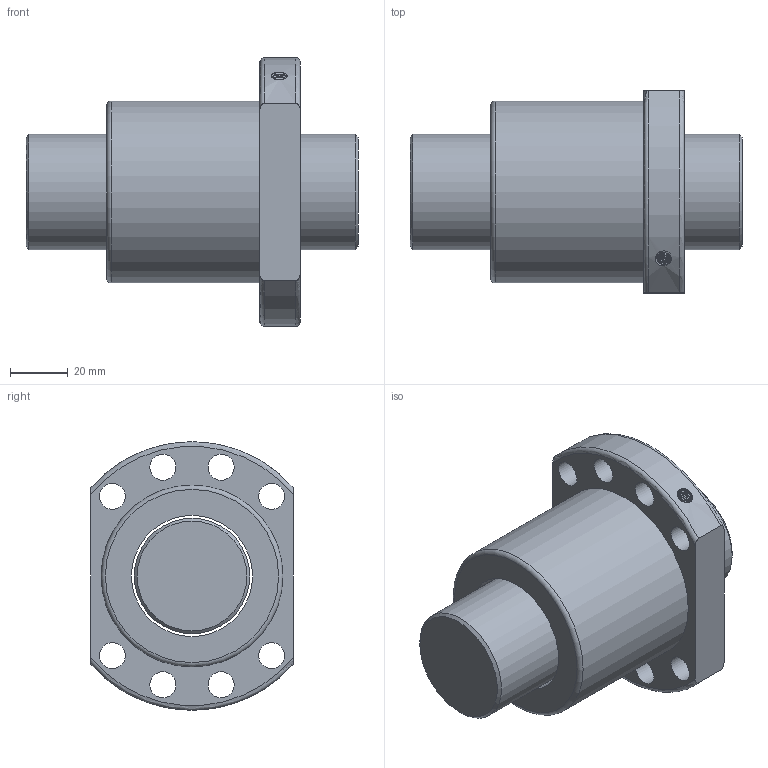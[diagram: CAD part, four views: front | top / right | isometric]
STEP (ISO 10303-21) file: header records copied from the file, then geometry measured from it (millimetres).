
FILE_DESCRIPTION(/* description */ ('Unknown','CAx-IF Rec.Pracs.---Representation and Presentation of Product Manufacturing Information (PMI)---4.0---2014-10-13','CAx-IF Rec.Pracs.---3D Tessellated Geometry---0.4---2014-09-14','2;1'),/* implementation_level */ '2;1');
FILE_NAME(/* name */ 'SFU04008',/* time_stamp */ '2020-12-07T16:54:11+08:00',/* author */ ('Unknown'),/* organization */ ('Unknown'),/* preprocessor_version */ 'ST-DEVELOPER v16.7',/* originating_system */ 'Solid Edge',/* authorisation */ 'Unknown');
FILE_SCHEMA (('AP242_MANAGED_MODEL_BASED_3D_ENGINEERING_MIM_LF { 1 0 10303 442 1 1 4 }'));
Length unit declared in the file: millimetre
Products named in the file (1): SFU04008
Bounding box: 115 x 70 x 93 mm (x, y, z)
Volume: 290579.3 mm3; surface area: 51168 mm2
Topology: 2 solids, 2 shells, 35 faces, 92 edges, 62 vertices
Faces by surface type: cylinder 17, plane 8, torus 5, cone 3, bspline 2
Full cylindrical faces by diameter (mm): 4 x1, 4.917 x1, 9 x8, 40 x1, 42 x1, 63 x1
Entity records: 3264 total; most frequent: CARTESIAN_POINT 2425, DIRECTION 158, ORIENTED_EDGE 130, AXIS2_PLACEMENT_3D 76, EDGE_LOOP 73, FACE_BOUND 73, EDGE_CURVE 65, VERTEX_POINT 52
